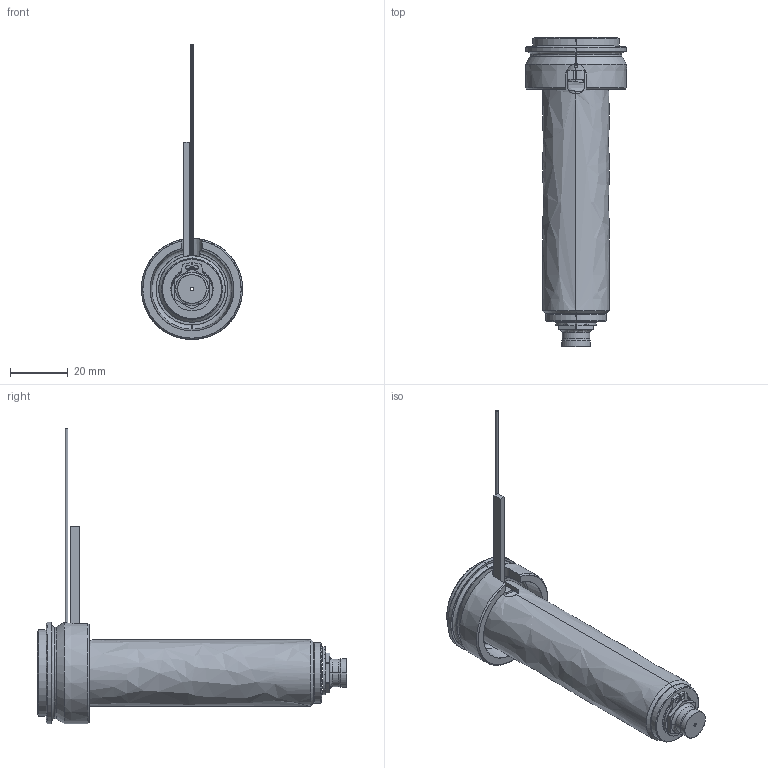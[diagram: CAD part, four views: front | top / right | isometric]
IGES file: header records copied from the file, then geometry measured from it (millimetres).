
Start section: SolidWorks IGES file using analytic representation for surfaces
Global section: file name: C:\Documents and Settings\ws-20\Desktop\TEM\UGEP3152-M-A-0 [Øf-0.30 P-0 ØC-7.0].IGS; native system: SolidWorks 2012; preprocessor: SolidWorks 2012; author: ws-20; date: 120404.081934; units: millimetre
Bounding box: 35 x 107 x 102.1 mm (x, y, z)
Surface area: 18224.5 mm2 (no closed solid volume)
Topology: 0 solids, 0 shells, 112 faces, 1620 edges, 1620 vertices
Faces by surface type: revolution 65, bspline 47
